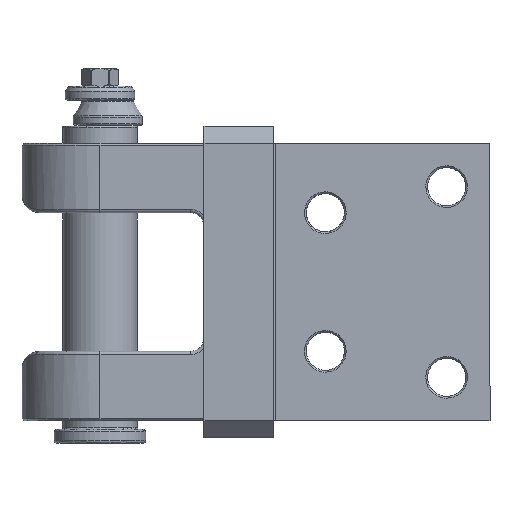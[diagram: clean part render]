
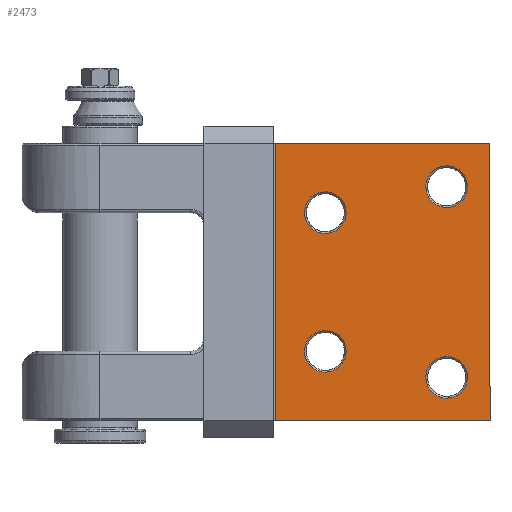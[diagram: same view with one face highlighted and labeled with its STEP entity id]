
A CAD part, left-side view. The second image highlights one B-rep face of the part: STEP entity #2473.
In plain terms, the highlighted planar face has unit normal (-1, 0, 0).
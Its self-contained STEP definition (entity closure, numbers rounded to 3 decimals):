
#1815=FACE_BOUND('',#4208,.T.);
#1816=FACE_BOUND('',#4209,.T.);
#1817=FACE_BOUND('',#4210,.T.);
#1818=FACE_BOUND('',#4211,.T.);
#1819=FACE_BOUND('',#4212,.T.);
#1997=PLANE('',#23717);
#2473=ADVANCED_FACE('*FAC1949',(#1815,#1816,#1817,#1818,#1819),#1997,.F.);
#4208=EDGE_LOOP('',(#6955,#6956,#6957,#6958));
#4209=EDGE_LOOP('',(#6959,#6960));
#4210=EDGE_LOOP('',(#6961,#6962));
#4211=EDGE_LOOP('',(#6963,#6964));
#4212=EDGE_LOOP('',(#6965,#6966));
#6955=ORIENTED_EDGE('',*,*,#17458,.F.);
#6956=ORIENTED_EDGE('',*,*,#17674,.T.);
#6957=ORIENTED_EDGE('',*,*,#17675,.T.);
#6958=ORIENTED_EDGE('',*,*,#17676,.T.);
#6959=ORIENTED_EDGE('',*,*,#17451,.F.);
#6960=ORIENTED_EDGE('',*,*,#17450,.F.);
#6961=ORIENTED_EDGE('',*,*,#17449,.F.);
#6962=ORIENTED_EDGE('',*,*,#17448,.F.);
#6963=ORIENTED_EDGE('',*,*,#17447,.F.);
#6964=ORIENTED_EDGE('',*,*,#17446,.F.);
#6965=ORIENTED_EDGE('',*,*,#17445,.F.);
#6966=ORIENTED_EDGE('',*,*,#17444,.F.);
#14025=VERTEX_POINT('',#30997);
#14026=VERTEX_POINT('',#30998);
#14027=VERTEX_POINT('',#31020);
#14028=VERTEX_POINT('',#31021);
#14029=VERTEX_POINT('',#31043);
#14030=VERTEX_POINT('',#31044);
#14031=VERTEX_POINT('',#31066);
#14032=VERTEX_POINT('',#31067);
#14039=VERTEX_POINT('',#31135);
#14040=VERTEX_POINT('',#31140);
#14207=VERTEX_POINT('',#33394);
#14208=VERTEX_POINT('',#33399);
#17444=EDGE_CURVE('',#14025,#14026,#21240,.T.);
#17445=EDGE_CURVE('',#14026,#14025,#21241,.T.);
#17446=EDGE_CURVE('',#14027,#14028,#21242,.T.);
#17447=EDGE_CURVE('',#14028,#14027,#21243,.T.);
#17448=EDGE_CURVE('',#14029,#14030,#21244,.T.);
#17449=EDGE_CURVE('',#14030,#14029,#21245,.T.);
#17450=EDGE_CURVE('',#14031,#14032,#21246,.T.);
#17451=EDGE_CURVE('',#14032,#14031,#21247,.T.);
#17458=EDGE_CURVE('',#14039,#14040,#21254,.T.);
#17674=EDGE_CURVE('',#14039,#14207,#21410,.T.);
#17675=EDGE_CURVE('',#14207,#14208,#21411,.T.);
#17676=EDGE_CURVE('',#14208,#14040,#21412,.T.);
#21240=B_SPLINE_CURVE_WITH_KNOTS('',3,(#30987,#30988,#30989,#30990,#30991,
#30992,#30993,#30994,#30995,#30996),.UNSPECIFIED.,.F.,.F.,(4,2,2,2,4),(0.,
0.25,0.5,0.75,1.),.UNSPECIFIED.);
#21241=B_SPLINE_CURVE_WITH_KNOTS('',3,(#30999,#31000,#31001,#31002,#31003,
#31004,#31005,#31006,#31007,#31008),.UNSPECIFIED.,.F.,.F.,(4,2,2,2,4),(0.,
0.25,0.5,0.75,1.),.UNSPECIFIED.);
#21242=B_SPLINE_CURVE_WITH_KNOTS('',3,(#31010,#31011,#31012,#31013,#31014,
#31015,#31016,#31017,#31018,#31019),.UNSPECIFIED.,.F.,.F.,(4,2,2,2,4),(0.,
0.25,0.5,0.75,1.),.UNSPECIFIED.);
#21243=B_SPLINE_CURVE_WITH_KNOTS('',3,(#31022,#31023,#31024,#31025,#31026,
#31027,#31028,#31029,#31030,#31031),.UNSPECIFIED.,.F.,.F.,(4,2,2,2,4),(0.,
0.25,0.5,0.75,1.),.UNSPECIFIED.);
#21244=B_SPLINE_CURVE_WITH_KNOTS('',3,(#31033,#31034,#31035,#31036,#31037,
#31038,#31039,#31040,#31041,#31042),.UNSPECIFIED.,.F.,.F.,(4,2,2,2,4),(0.,
0.25,0.5,0.75,1.),.UNSPECIFIED.);
#21245=B_SPLINE_CURVE_WITH_KNOTS('',3,(#31045,#31046,#31047,#31048,#31049,
#31050,#31051,#31052,#31053,#31054),.UNSPECIFIED.,.F.,.F.,(4,2,2,2,4),(0.,
0.25,0.5,0.75,1.),.UNSPECIFIED.);
#21246=B_SPLINE_CURVE_WITH_KNOTS('',3,(#31056,#31057,#31058,#31059,#31060,
#31061,#31062,#31063,#31064,#31065),.UNSPECIFIED.,.F.,.F.,(4,2,2,2,4),(0.,
0.25,0.5,0.75,1.),.UNSPECIFIED.);
#21247=B_SPLINE_CURVE_WITH_KNOTS('',3,(#31068,#31069,#31070,#31071,#31072,
#31073,#31074,#31075,#31076,#31077),.UNSPECIFIED.,.F.,.F.,(4,2,2,2,4),(0.,
0.25,0.5,0.75,1.),.UNSPECIFIED.);
#21254=B_SPLINE_CURVE_WITH_KNOTS('',3,(#31136,#31137,#31138,#31139),
 .UNSPECIFIED.,.F.,.F.,(4,4),(0.,1.),.UNSPECIFIED.);
#21410=B_SPLINE_CURVE_WITH_KNOTS('',3,(#33390,#33391,#33392,#33393),
 .UNSPECIFIED.,.F.,.F.,(4,4),(0.,1.),.UNSPECIFIED.);
#21411=B_SPLINE_CURVE_WITH_KNOTS('',3,(#33395,#33396,#33397,#33398),
 .UNSPECIFIED.,.F.,.F.,(4,4),(0.,1.),.UNSPECIFIED.);
#21412=B_SPLINE_CURVE_WITH_KNOTS('',3,(#33400,#33401,#33402,#33403),
 .UNSPECIFIED.,.F.,.F.,(4,4),(0.,1.),.UNSPECIFIED.);
#23717=AXIS2_PLACEMENT_3D('',#33404,#24349,#24350);
#24349=DIRECTION('',(1.,0.,0.));
#24350=DIRECTION('',(0.,0.,-1.));
#30987=CARTESIAN_POINT('',(-35.,95.,-132.));
#30988=CARTESIAN_POINT('',(-35.,91.858,-132.));
#30989=CARTESIAN_POINT('',(-35.,88.736,-130.707));
#30990=CARTESIAN_POINT('',(-35.,84.293,-126.264));
#30991=CARTESIAN_POINT('',(-35.,83.,-123.142));
#30992=CARTESIAN_POINT('',(-35.,83.,-116.858));
#30993=CARTESIAN_POINT('',(-35.,84.293,-113.736));
#30994=CARTESIAN_POINT('',(-35.,88.736,-109.293));
#30995=CARTESIAN_POINT('',(-35.,91.858,-108.));
#30996=CARTESIAN_POINT('',(-35.,95.,-108.));
#30997=CARTESIAN_POINT('',(-35.,95.,-132.));
#30998=CARTESIAN_POINT('',(-35.,95.,-108.));
#30999=CARTESIAN_POINT('',(-35.,95.,-108.));
#31000=CARTESIAN_POINT('',(-35.,98.142,-108.));
#31001=CARTESIAN_POINT('',(-35.,101.264,-109.293));
#31002=CARTESIAN_POINT('',(-35.,105.707,-113.736));
#31003=CARTESIAN_POINT('',(-35.,107.,-116.858));
#31004=CARTESIAN_POINT('',(-35.,107.,-123.142));
#31005=CARTESIAN_POINT('',(-35.,105.707,-126.264));
#31006=CARTESIAN_POINT('',(-35.,101.264,-130.707));
#31007=CARTESIAN_POINT('',(-35.,98.142,-132.));
#31008=CARTESIAN_POINT('',(-35.,95.,-132.));
#31010=CARTESIAN_POINT('',(-35.,95.,-52.));
#31011=CARTESIAN_POINT('',(-35.,91.858,-52.));
#31012=CARTESIAN_POINT('',(-35.,88.736,-50.707));
#31013=CARTESIAN_POINT('',(-35.,84.293,-46.264));
#31014=CARTESIAN_POINT('',(-35.,83.,-43.142));
#31015=CARTESIAN_POINT('',(-35.,83.,-36.858));
#31016=CARTESIAN_POINT('',(-35.,84.293,-33.736));
#31017=CARTESIAN_POINT('',(-35.,88.736,-29.293));
#31018=CARTESIAN_POINT('',(-35.,91.858,-28.));
#31019=CARTESIAN_POINT('',(-35.,95.,-28.));
#31020=CARTESIAN_POINT('',(-35.,95.,-52.));
#31021=CARTESIAN_POINT('',(-35.,95.,-28.));
#31022=CARTESIAN_POINT('',(-35.,95.,-28.));
#31023=CARTESIAN_POINT('',(-35.,98.142,-28.));
#31024=CARTESIAN_POINT('',(-35.,101.264,-29.293));
#31025=CARTESIAN_POINT('',(-35.,105.707,-33.736));
#31026=CARTESIAN_POINT('',(-35.,107.,-36.858));
#31027=CARTESIAN_POINT('',(-35.,107.,-43.142));
#31028=CARTESIAN_POINT('',(-35.,105.707,-46.264));
#31029=CARTESIAN_POINT('',(-35.,101.264,-50.707));
#31030=CARTESIAN_POINT('',(-35.,98.142,-52.));
#31031=CARTESIAN_POINT('',(-35.,95.,-52.));
#31033=CARTESIAN_POINT('',(-35.,25.,-147.));
#31034=CARTESIAN_POINT('',(-35.,21.858,-147.));
#31035=CARTESIAN_POINT('',(-35.,18.736,-145.707));
#31036=CARTESIAN_POINT('',(-35.,14.293,-141.264));
#31037=CARTESIAN_POINT('',(-35.,13.,-138.142));
#31038=CARTESIAN_POINT('',(-35.,13.,-131.858));
#31039=CARTESIAN_POINT('',(-35.,14.293,-128.736));
#31040=CARTESIAN_POINT('',(-35.,18.736,-124.293));
#31041=CARTESIAN_POINT('',(-35.,21.858,-123.));
#31042=CARTESIAN_POINT('',(-35.,25.,-123.));
#31043=CARTESIAN_POINT('',(-35.,25.,-147.));
#31044=CARTESIAN_POINT('',(-35.,25.,-123.));
#31045=CARTESIAN_POINT('',(-35.,25.,-123.));
#31046=CARTESIAN_POINT('',(-35.,28.142,-123.));
#31047=CARTESIAN_POINT('',(-35.,31.264,-124.293));
#31048=CARTESIAN_POINT('',(-35.,35.707,-128.736));
#31049=CARTESIAN_POINT('',(-35.,37.,-131.858));
#31050=CARTESIAN_POINT('',(-35.,37.,-138.142));
#31051=CARTESIAN_POINT('',(-35.,35.707,-141.264));
#31052=CARTESIAN_POINT('',(-35.,31.264,-145.707));
#31053=CARTESIAN_POINT('',(-35.,28.142,-147.));
#31054=CARTESIAN_POINT('',(-35.,25.,-147.));
#31056=CARTESIAN_POINT('',(-35.,37.,-25.));
#31057=CARTESIAN_POINT('',(-35.,37.,-28.142));
#31058=CARTESIAN_POINT('',(-35.,35.707,-31.264));
#31059=CARTESIAN_POINT('',(-35.,31.264,-35.707));
#31060=CARTESIAN_POINT('',(-35.,28.142,-37.));
#31061=CARTESIAN_POINT('',(-35.,21.858,-37.));
#31062=CARTESIAN_POINT('',(-35.,18.736,-35.707));
#31063=CARTESIAN_POINT('',(-35.,14.293,-31.264));
#31064=CARTESIAN_POINT('',(-35.,13.,-28.142));
#31065=CARTESIAN_POINT('',(-35.,13.,-25.));
#31066=CARTESIAN_POINT('',(-35.,37.,-25.));
#31067=CARTESIAN_POINT('',(-35.,13.,-25.));
#31068=CARTESIAN_POINT('',(-35.,13.,-25.));
#31069=CARTESIAN_POINT('',(-35.,13.,-21.858));
#31070=CARTESIAN_POINT('',(-35.,14.293,-18.736));
#31071=CARTESIAN_POINT('',(-35.,18.736,-14.293));
#31072=CARTESIAN_POINT('',(-35.,21.858,-13.));
#31073=CARTESIAN_POINT('',(-35.,28.142,-13.));
#31074=CARTESIAN_POINT('',(-35.,31.264,-14.293));
#31075=CARTESIAN_POINT('',(-35.,35.707,-18.736));
#31076=CARTESIAN_POINT('',(-35.,37.,-21.858));
#31077=CARTESIAN_POINT('',(-35.,37.,-25.));
#31135=CARTESIAN_POINT('',(-35.,123.5,-160.));
#31136=CARTESIAN_POINT('',(-35.,123.5,-160.));
#31137=CARTESIAN_POINT('',(-35.,123.5,-106.667));
#31138=CARTESIAN_POINT('',(-35.,123.5,-53.333));
#31139=CARTESIAN_POINT('',(-35.,123.5,0.));
#31140=CARTESIAN_POINT('',(-35.,123.5,0.));
#33390=CARTESIAN_POINT('',(-35.,123.5,-160.));
#33391=CARTESIAN_POINT('',(-35.,82.333,-160.));
#33392=CARTESIAN_POINT('',(-35.,41.167,-160.));
#33393=CARTESIAN_POINT('',(-35.,0.,-160.));
#33394=CARTESIAN_POINT('',(-35.,0.,-160.));
#33395=CARTESIAN_POINT('',(-35.,0.,-160.));
#33396=CARTESIAN_POINT('',(-35.,0.,-106.667));
#33397=CARTESIAN_POINT('',(-35.,0.,-53.333));
#33398=CARTESIAN_POINT('',(-35.,0.,0.));
#33399=CARTESIAN_POINT('',(-35.,0.,0.));
#33400=CARTESIAN_POINT('',(-35.,0.,0.));
#33401=CARTESIAN_POINT('',(-35.,41.167,0.));
#33402=CARTESIAN_POINT('',(-35.,82.333,0.));
#33403=CARTESIAN_POINT('',(-35.,123.5,0.));
#33404=CARTESIAN_POINT('',(-35.,0.,0.));
